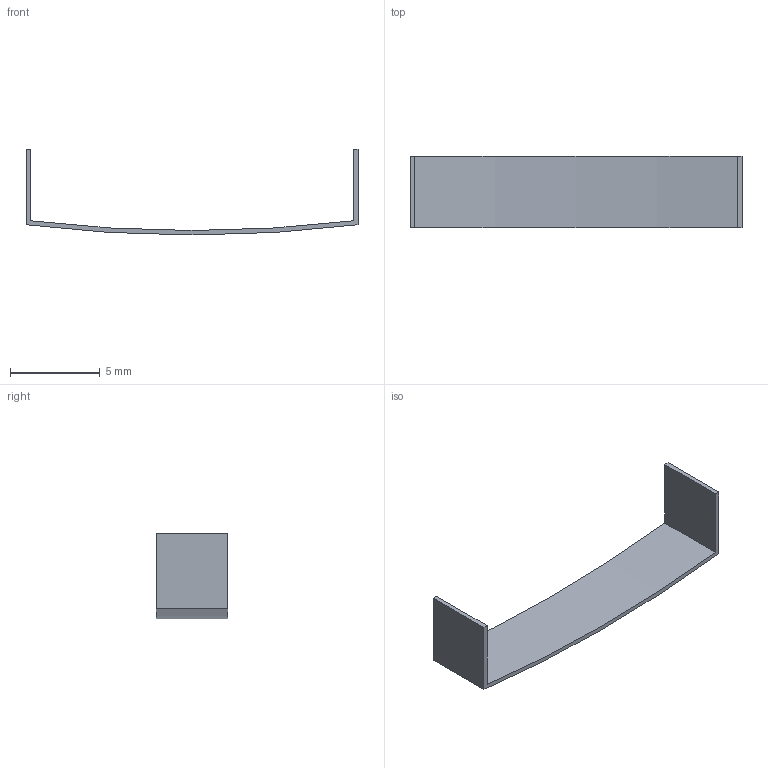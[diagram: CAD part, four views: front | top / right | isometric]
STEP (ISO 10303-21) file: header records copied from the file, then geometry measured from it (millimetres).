
FILE_DESCRIPTION(/* description */ ('Unknown'),/* implementation_level */ '2;1');
FILE_NAME(/* name */ 'BSN1001',/* time_stamp */ '2018-11-12T17:32:14+00:00',/* author */ ('Unknown'),/* organization */ ('Unknown'),/* preprocessor_version */ 'ST-DEVELOPER v16.7',/* originating_system */ 'DEX',/* authorisation */ $);
FILE_SCHEMA (('AUTOMOTIVE_DESIGN {1 0 10303 214 3 1 1}'));
Length unit declared in the file: millimetre
Products named in the file (1): BSN1001
Bounding box: 18.5 x 4 x 4.79 mm (x, y, z)
Volume: 26.5 mm3; surface area: 227.4 mm2
Topology: 1 solids, 1 shells, 10 faces, 24 edges, 16 vertices
Faces by surface type: plane 8, cylinder 2
Entity records: 322 total; most frequent: CARTESIAN_POINT 51, DIRECTION 50, ORIENTED_EDGE 48, EDGE_CURVE 24, LINE 20, VECTOR 20, VERTEX_POINT 16, AXIS2_PLACEMENT_3D 15
